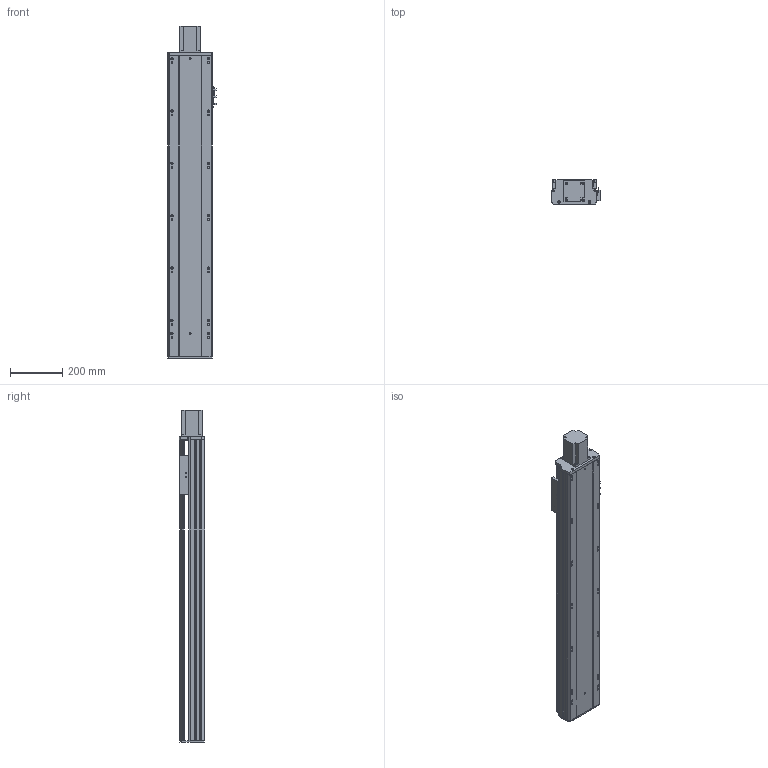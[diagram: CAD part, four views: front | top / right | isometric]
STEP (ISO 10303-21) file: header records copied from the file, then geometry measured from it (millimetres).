
FILE_DESCRIPTION (( 'STEP AP203' ), '1' );
FILE_NAME ('Y170-D10-S900-BD-P750W.STEP', '2020-01-22T07:02:17', ( '微软用户' ), ( '微软中国' ), 'SwSTEP 2.0', 'SolidWorks 2017', '' );
FILE_SCHEMA (( 'CONFIG_CONTROL_DESIGN' ));
Length unit declared in the file: millimetre
Products named in the file (10): Y170耜裔--準---; Y170-陔遴奻裔-BD; Y170--雄赽釱-梓--; YD-Y100-135-新外置传感挡片(通用）; Y170-D10-S900-BD-P750W; Y100-135俋离換覜ん; 170--掛极-BD; Y170-萇儂楊擘啣--; 135-盓傅釱-FK15; 侂狟750W
Assembly tree (11 placements, depth 2):
  Y170-D10-S900-BD-P750W
    YD-Y100-135-新外置传感挡片(通用）
    Y100-135俋离換覜ん  x3
    170--掛极-BD
    Y170-萇儂楊擘啣--
    135-盓傅釱-FK15
    侂狟750W
    Y170耜裔--準---
    Y170-陔遴奻裔-BD
    Y170--雄赽釱-梓--
Bounding box: 183.5 x 97 x 1268.5 mm (x, y, z)
Volume: 5475917.4 mm3; surface area: 1834255.1 mm2
Topology: 11 solids, 11 shells, 828 faces, 2355 edges, 1560 vertices
Faces by surface type: cylinder 438, plane 388, torus 2
Entity records: 26991 total; most frequent: CARTESIAN_POINT 4843, DIRECTION 4505, ORIENTED_EDGE 4374, EDGE_CURVE 2187, AXIS2_PLACEMENT_3D 1622, VERTEX_POINT 1448, VECTOR 1261, LINE 1261
